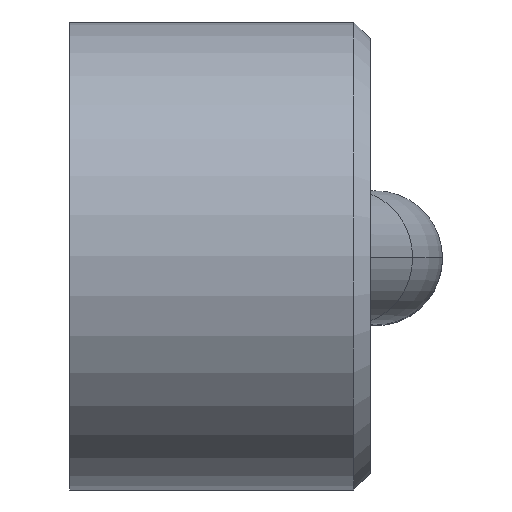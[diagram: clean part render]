
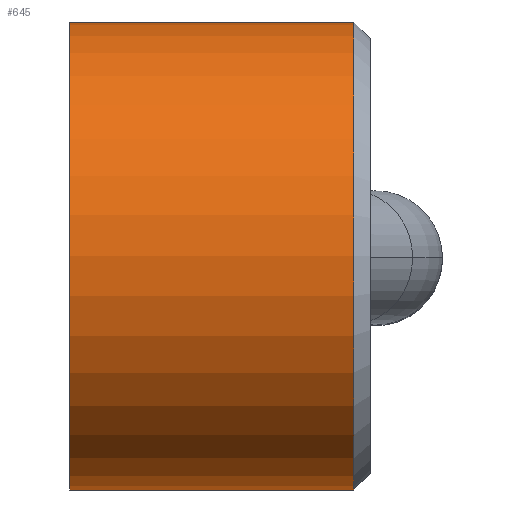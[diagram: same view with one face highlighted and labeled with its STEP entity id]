
A CAD part, top view. The second image highlights one B-rep face of the part: STEP entity #645.
In plain terms, the highlighted cylindrical face has radius 14 mm (diameter 28 mm), a partial arc.
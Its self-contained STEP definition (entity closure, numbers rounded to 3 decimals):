
#7=CARTESIAN_POINT('',(0.,0.,0.));
#8=DIRECTION('',(1.,0.,0.));
#9=DIRECTION('',(0.,1.,0.));
#10=AXIS2_PLACEMENT_3D('',#7,#8,#9);
#33=DIRECTION('',(1.,0.,0.));
#34=VECTOR('',#33,17.);
#35=CARTESIAN_POINT('',(0.,-14.,0.));
#36=LINE('',#35,#34);
#195=CARTESIAN_POINT('',(17.,0.,0.));
#196=DIRECTION('',(1.,0.,0.));
#197=DIRECTION('',(0.,1.,0.));
#198=AXIS2_PLACEMENT_3D('',#195,#196,#197);
#200=DIRECTION('',(1.,0.,0.));
#201=VECTOR('',#200,17.);
#202=CARTESIAN_POINT('',(0.,14.,0.));
#203=LINE('',#202,#201);
#434=CARTESIAN_POINT('',(0.,-14.,0.));
#435=CARTESIAN_POINT('',(0.,14.,0.));
#436=VERTEX_POINT('',#434);
#437=VERTEX_POINT('',#435);
#482=CARTESIAN_POINT('',(17.,14.,0.));
#483=CARTESIAN_POINT('',(17.,-14.,0.));
#484=VERTEX_POINT('',#482);
#485=VERTEX_POINT('',#483);
#634=CARTESIAN_POINT('',(0.,0.,0.));
#635=DIRECTION('',(1.,0.,0.));
#636=DIRECTION('',(0.,-1.,0.));
#637=AXIS2_PLACEMENT_3D('',#634,#635,#636);
#638=CYLINDRICAL_SURFACE('',#637,14.);
#639=ORIENTED_EDGE('',*,*,#628,.T.);
#640=ORIENTED_EDGE('',*,*,#522,.F.);
#641=ORIENTED_EDGE('',*,*,#497,.F.);
#642=ORIENTED_EDGE('',*,*,#519,.T.);
#643=EDGE_LOOP('',(#639,#640,#641,#642));
#644=FACE_OUTER_BOUND('',#643,.F.);
#645=ADVANCED_FACE('',(#644),#638,.T.);
#11=CIRCLE('',#10,14.);
#199=CIRCLE('',#198,14.);
#497=EDGE_CURVE('',#437,#436,#11,.T.);
#519=EDGE_CURVE('',#437,#484,#203,.T.);
#522=EDGE_CURVE('',#436,#485,#36,.T.);
#628=EDGE_CURVE('',#484,#485,#199,.T.);
